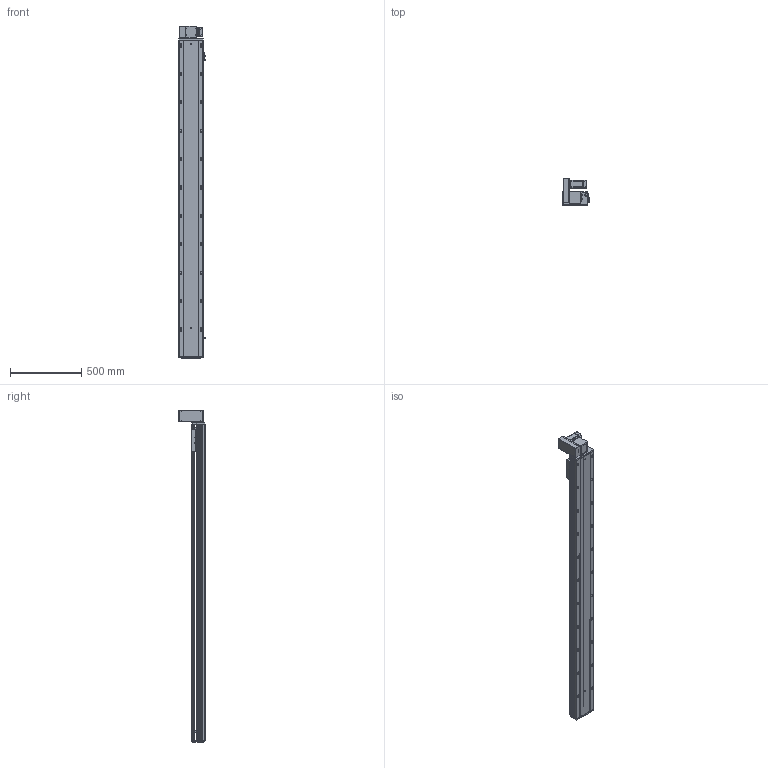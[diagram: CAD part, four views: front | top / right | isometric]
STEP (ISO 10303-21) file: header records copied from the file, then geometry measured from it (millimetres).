
FILE_DESCRIPTION (( 'STEP AP203' ), '1' );
FILE_NAME ('RY170-T-300-UL-P400W.SLDASM_1950.step', '2021-03-02T02:14:17', ( '盈信电脑' ), ( '东莞市道滘镇水果街19号' ), 'SwSTEP 2.0', 'SolidWorks 2012', '' );
FILE_SCHEMA (( 'CONFIG_CONTROL_DESIGN' ));
Products named in the file (18): RY170-T-300-UL-P400W.SLDASM_1950; 15; RY170-T蹟翐M4; RY170肮祭謫萇儂欶; 滅袉蝶18-10; RY170同步轮电机安装板(400W); RY120-T主同步轮轴承压盖; RY170-T肮祭謫裔啣; RY170-T肮祭湍揤踡輸2; RY170-T肮祭湍揤踡輸1; RY170翋肮祭謫釱; RY170外置感应片(200共用）; 覜茼ん672; RY170肮祭謫ヶ裔啣; RY170綴裔啣; RY170肮祭湍臏賑輸; RY170-T-300肮祭謫倰第裔啣-DL_1950; RY170-T-300肮祭謫倰第菁釱-DL_1950
Assembly tree (20 placements, depth 2):
  RY170-T-300-UL-P400W.SLDASM_1950
    RY170-T-300肮祭謫倰第菁釱-DL_1950
    RY170肮祭湍臏賑輸
    RY170-T-300肮祭謫倰第裔啣-DL_1950
    RY170綴裔啣
    覜茼ん672  x3
    RY170外置感应片(200共用）
    RY170肮祭謫ヶ裔啣
    RY170翋肮祭謫釱
    RY170-T肮祭湍揤踡輸1
    RY170-T肮祭湍揤踡輸2
    RY170-T肮祭謫裔啣
    滅袉蝶18-10  x2
    RY120-T主同步轮轴承压盖
    RY170肮祭謫萇儂欶
    RY170同步轮电机安装板(400W)
    RY170-T蹟翐M4
    15
Bounding box: 183.7 x 184 x 2338 mm (x, y, z)
Volume: 10843079.6 mm3; surface area: 3724094.8 mm2
Topology: 20 solids, 20 shells, 2797 faces, 7858 edges, 4997 vertices
Faces by surface type: cylinder 1314, plane 1153, cone 300, bspline 30
Entity records: 90096 total; most frequent: CARTESIAN_POINT 20730, ORIENTED_EDGE 14232, DIRECTION 13902, EDGE_CURVE 7116, AXIS2_PLACEMENT_3D 4931, VERTEX_POINT 4665, VECTOR 4040, LINE 4040
